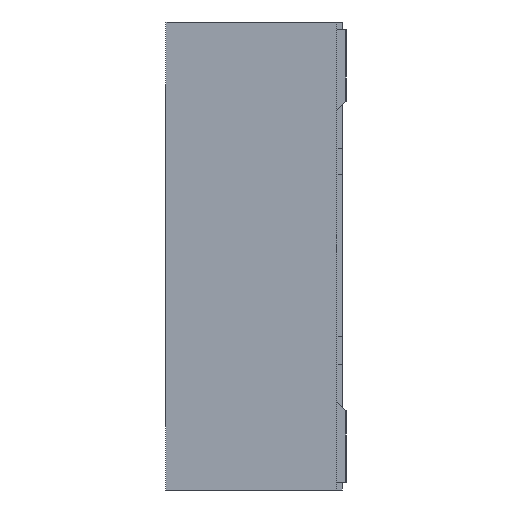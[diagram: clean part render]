
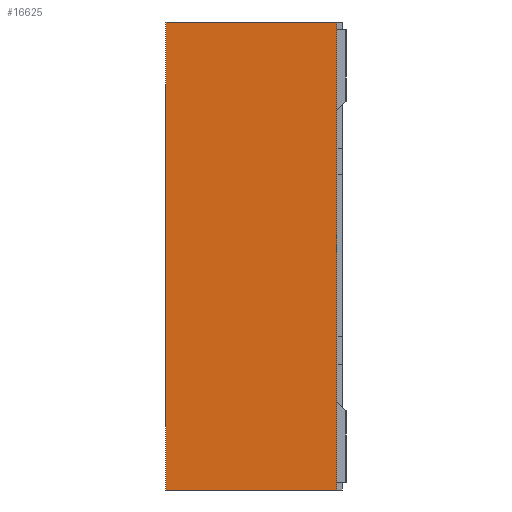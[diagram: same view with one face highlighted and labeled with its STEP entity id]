
A CAD part, left-side view. The second image highlights one B-rep face of the part: STEP entity #16625.
In plain terms, the highlighted planar face has unit normal (-1, 0, 0).
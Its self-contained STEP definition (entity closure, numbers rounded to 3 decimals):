
#37=DIRECTION('',(0.,-1.,0.));
#38=VECTOR('',#37,0.95);
#39=CARTESIAN_POINT('',(-4.15,0.49,-1.3));
#40=LINE('',#39,#38);
#577=DIRECTION('',(0.,-1.,0.));
#578=VECTOR('',#577,0.95);
#579=CARTESIAN_POINT('',(-4.15,0.49,1.3));
#580=LINE('',#579,#578);
#3813=DIRECTION('',(0.,0.,1.));
#3814=VECTOR('',#3813,2.6);
#3815=CARTESIAN_POINT('',(-4.15,-0.46,-1.3));
#3816=LINE('',#3815,#3814);
#3817=DIRECTION('',(0.,0.,1.));
#3818=VECTOR('',#3817,2.6);
#3819=CARTESIAN_POINT('',(-4.15,0.49,-1.3));
#3820=LINE('',#3819,#3818);
#9697=CARTESIAN_POINT('',(-4.15,0.49,-1.3));
#9698=CARTESIAN_POINT('',(-4.15,0.49,1.3));
#9699=VERTEX_POINT('',#9697);
#9700=VERTEX_POINT('',#9698);
#10195=CARTESIAN_POINT('',(-4.15,-0.46,-1.3));
#10196=CARTESIAN_POINT('',(-4.15,-0.46,1.3));
#10197=VERTEX_POINT('',#10195);
#10198=VERTEX_POINT('',#10196);
#16614=CARTESIAN_POINT('',(-4.15,0.49,-1.3));
#16615=DIRECTION('',(-1.,0.,0.));
#16616=DIRECTION('',(0.,-1.,0.));
#16617=AXIS2_PLACEMENT_3D('',#16614,#16615,#16616);
#16618=PLANE('',#16617);
#16619=ORIENTED_EDGE('',*,*,#13069,.F.);
#16620=ORIENTED_EDGE('',*,*,#12692,.F.);
#16621=ORIENTED_EDGE('',*,*,#15515,.T.);
#16622=ORIENTED_EDGE('',*,*,#13149,.T.);
#16623=EDGE_LOOP('',(#16619,#16620,#16621,#16622));
#16624=FACE_OUTER_BOUND('',#16623,.F.);
#16625=ADVANCED_FACE('',(#16624),#16618,.T.);
#12692=EDGE_CURVE('',#9699,#10197,#40,.T.);
#13069=EDGE_CURVE('',#10197,#10198,#3816,.T.);
#13149=EDGE_CURVE('',#9700,#10198,#580,.T.);
#15515=EDGE_CURVE('',#9699,#9700,#3820,.T.);
